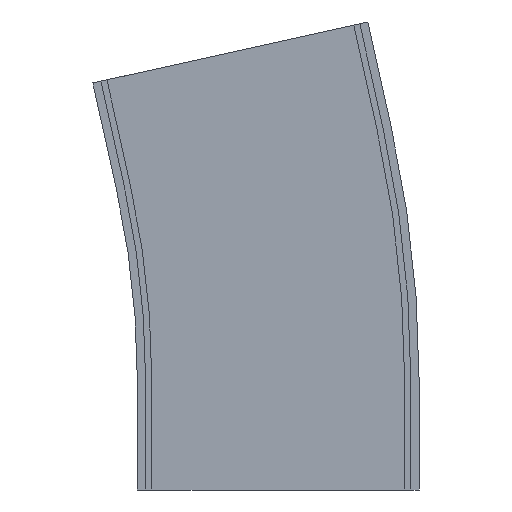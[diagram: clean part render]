
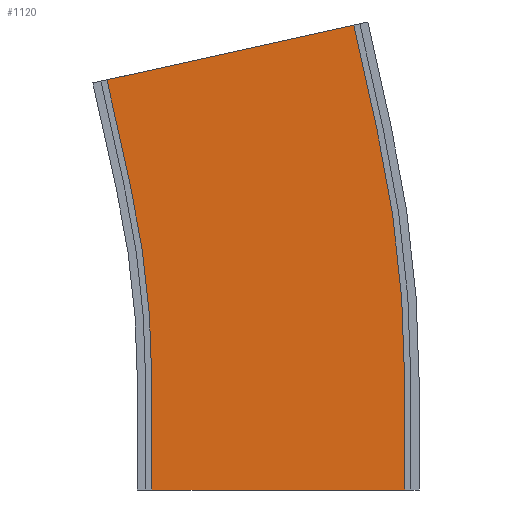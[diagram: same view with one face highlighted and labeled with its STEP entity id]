
A CAD part, left-side view. The second image highlights one B-rep face of the part: STEP entity #1120.
In plain terms, the highlighted planar face has unit normal (-1, 0, 0).
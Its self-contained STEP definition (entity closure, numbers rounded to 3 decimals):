
#9 = LINE ( 'NONE', #389, #1191 ) ;
#54 = ORIENTED_EDGE ( 'NONE', *, *, #614, .F. ) ;
#67 = CARTESIAN_POINT ( 'NONE',  ( -173., 61.25, 0. ) ) ;
#111 = EDGE_CURVE ( 'NONE', #956, #863, #387, .T. ) ;
#116 = CARTESIAN_POINT ( 'NONE',  ( -173., 500., 52.5 ) ) ;
#146 = VECTOR ( 'NONE', #1229, 1000. ) ;
#166 = ORIENTED_EDGE ( 'NONE', *, *, #968, .F. ) ;
#170 = DIRECTION ( 'NONE',  ( 0., 0., -1. ) ) ;
#278 = DIRECTION ( 'NONE',  ( 0., -0.976, 0.216 ) ) ;
#296 = VECTOR ( 'NONE', #170, 1000. ) ;
#315 = ORIENTED_EDGE ( 'NONE', *, *, #1023, .T. ) ;
#345 = FACE_OUTER_BOUND ( 'NONE', #729, .T. ) ;
#351 = DIRECTION ( 'NONE',  ( 0., 0., -1. ) ) ;
#358 = LINE ( 'NONE', #1243, #894 ) ;
#359 = CARTESIAN_POINT ( 'NONE',  ( -173., -61.25, 0. ) ) ;
#378 = CARTESIAN_POINT ( 'NONE',  ( -173., 61.25, 52.5 ) ) ;
#387 = CIRCLE ( 'NONE', #785, 561.25 ) ;
#389 = CARTESIAN_POINT ( 'NONE',  ( -173., -47.946, 173.977 ) ) ;
#406 = AXIS2_PLACEMENT_3D ( 'NONE', #1247, #605, #1381 ) ;
#417 = EDGE_CURVE ( 'NONE', #863, #420, #9, .T. ) ;
#420 = VERTEX_POINT ( 'NONE', #593 ) ;
#426 = VECTOR ( 'NONE', #351, 1000. ) ;
#448 = CARTESIAN_POINT ( 'NONE',  ( -173., -61.25, 52.5 ) ) ;
#465 = EDGE_CURVE ( 'NONE', #469, #488, #858, .T. ) ;
#469 = VERTEX_POINT ( 'NONE', #1259 ) ;
#479 = VERTEX_POINT ( 'NONE', #1159 ) ;
#488 = VERTEX_POINT ( 'NONE', #67 ) ;
#494 = EDGE_CURVE ( 'NONE', #639, #420, #1115, .T. ) ;
#498 = DIRECTION ( 'NONE',  ( 0., 0.216, 0.976 ) ) ;
#536 = ORIENTED_EDGE ( 'NONE', *, *, #1173, .F. ) ;
#593 = CARTESIAN_POINT ( 'NONE',  ( -173., -36.583, 225.232 ) ) ;
#603 = LINE ( 'NONE', #359, #146 ) ;
#605 = DIRECTION ( 'NONE',  ( -1., 0., 0. ) ) ;
#614 = EDGE_CURVE ( 'NONE', #479, #639, #358, .T. ) ;
#618 = PLANE ( 'NONE',  #1005 ) ;
#619 = VECTOR ( 'NONE', #278, 1000. ) ;
#621 = CIRCLE ( 'NONE', #406, 438.75 ) ;
#629 = VERTEX_POINT ( 'NONE', #1049 ) ;
#639 = VERTEX_POINT ( 'NONE', #1370 ) ;
#651 = ORIENTED_EDGE ( 'NONE', *, *, #111, .T. ) ;
#671 = CARTESIAN_POINT ( 'NONE',  ( -173., -61.25, 52.5 ) ) ;
#729 = EDGE_LOOP ( 'NONE', ( #315, #166, #651, #1127, #739, #54, #536, #878 ) ) ;
#739 = ORIENTED_EDGE ( 'NONE', *, *, #494, .F. ) ;
#785 = AXIS2_PLACEMENT_3D ( 'NONE', #116, #866, #975 ) ;
#858 = LINE ( 'NONE', #378, #296 ) ;
#863 = VERTEX_POINT ( 'NONE', #1323 ) ;
#866 = DIRECTION ( 'NONE',  ( -1., 0., 0. ) ) ;
#878 = ORIENTED_EDGE ( 'NONE', *, *, #465, .T. ) ;
#894 = VECTOR ( 'NONE', #933, 1000. ) ;
#909 = LINE ( 'NONE', #671, #426 ) ;
#911 = DIRECTION ( 'NONE',  ( 0., 1., 0. ) ) ;
#916 = CARTESIAN_POINT ( 'NONE',  ( -173., -61.25, 52.5 ) ) ;
#933 = DIRECTION ( 'NONE',  ( 0., 0.216, 0.976 ) ) ;
#956 = VERTEX_POINT ( 'NONE', #448 ) ;
#968 = EDGE_CURVE ( 'NONE', #956, #629, #909, .T. ) ;
#975 = DIRECTION ( 'NONE',  ( 0., 0., 1. ) ) ;
#1005 = AXIS2_PLACEMENT_3D ( 'NONE', #916, #1388, #911 ) ;
#1023 = EDGE_CURVE ( 'NONE', #488, #629, #603, .T. ) ;
#1049 = CARTESIAN_POINT ( 'NONE',  ( -173., -61.25, 0. ) ) ;
#1115 = LINE ( 'NONE', #1141, #619 ) ;
#1120 = ADVANCED_FACE ( 'NONE', ( #345 ), #618, .F. ) ;
#1127 = ORIENTED_EDGE ( 'NONE', *, *, #417, .T. ) ;
#1141 = CARTESIAN_POINT ( 'NONE',  ( -173., -36.583, 225.232 ) ) ;
#1159 = CARTESIAN_POINT ( 'NONE',  ( -173., 71.65, 147.463 ) ) ;
#1173 = EDGE_CURVE ( 'NONE', #469, #479, #621, .T. ) ;
#1191 = VECTOR ( 'NONE', #498, 1000. ) ;
#1229 = DIRECTION ( 'NONE',  ( 0., -1., 0. ) ) ;
#1243 = CARTESIAN_POINT ( 'NONE',  ( -173., 71.65, 147.463 ) ) ;
#1247 = CARTESIAN_POINT ( 'NONE',  ( -173., 500., 52.5 ) ) ;
#1259 = CARTESIAN_POINT ( 'NONE',  ( -173., 61.25, 52.5 ) ) ;
#1323 = CARTESIAN_POINT ( 'NONE',  ( -173., -47.946, 173.977 ) ) ;
#1370 = CARTESIAN_POINT ( 'NONE',  ( -173., 83.013, 198.718 ) ) ;
#1381 = DIRECTION ( 'NONE',  ( 0., 0., 1. ) ) ;
#1388 = DIRECTION ( 'NONE',  ( 1., 0., 0. ) ) ;
